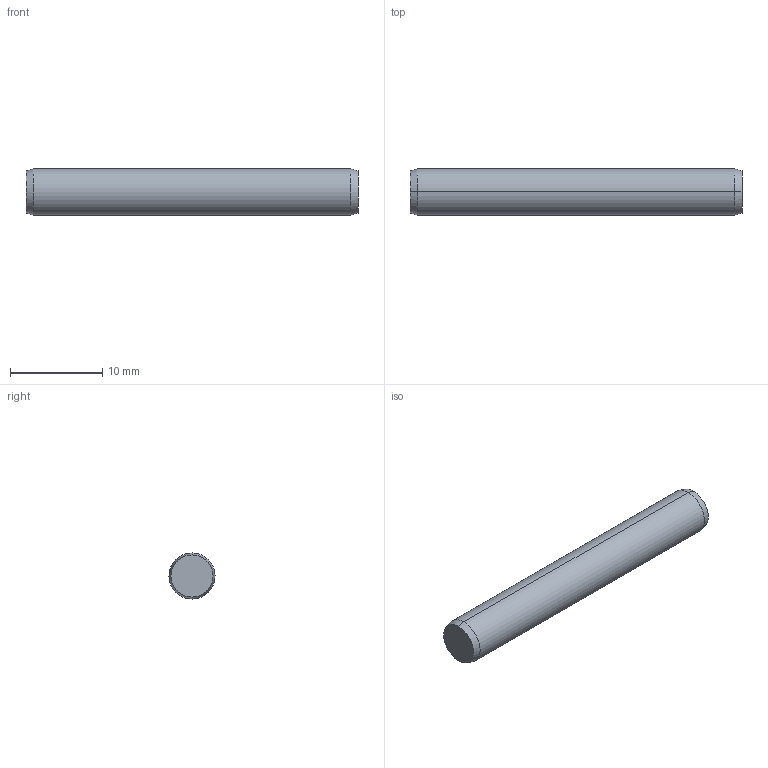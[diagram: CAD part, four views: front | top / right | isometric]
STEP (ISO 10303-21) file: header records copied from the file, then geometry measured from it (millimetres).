
FILE_DESCRIPTION (( 'STEP AP203' ), '1' );
FILE_NAME ('P1206.050-036.step', '2017-06-14T08:17:17', ( 'User' ), ( '' ), 'SwSTEP 2.0', 'SolidWorks 2009', '' );
FILE_SCHEMA (( 'CONFIG_CONTROL_DESIGN' ));
Length unit declared in the file: millimetre
Products named in the file (1): P1206.050-036
Bounding box: 36 x 5 x 5 mm (x, y, z)
Volume: 704.2 mm3; surface area: 598.1 mm2
Topology: 1 solids, 1 shells, 8 faces, 14 edges, 8 vertices
Faces by surface type: cone 4, cylinder 2, plane 2
Entity records: 271 total; most frequent: DIRECTION 40, CARTESIAN_POINT 31, ORIENTED_EDGE 28, AXIS2_PLACEMENT_3D 17, EDGE_CURVE 14, VERTEX_POINT 8, ADVANCED_FACE 8, EDGE_LOOP 8
